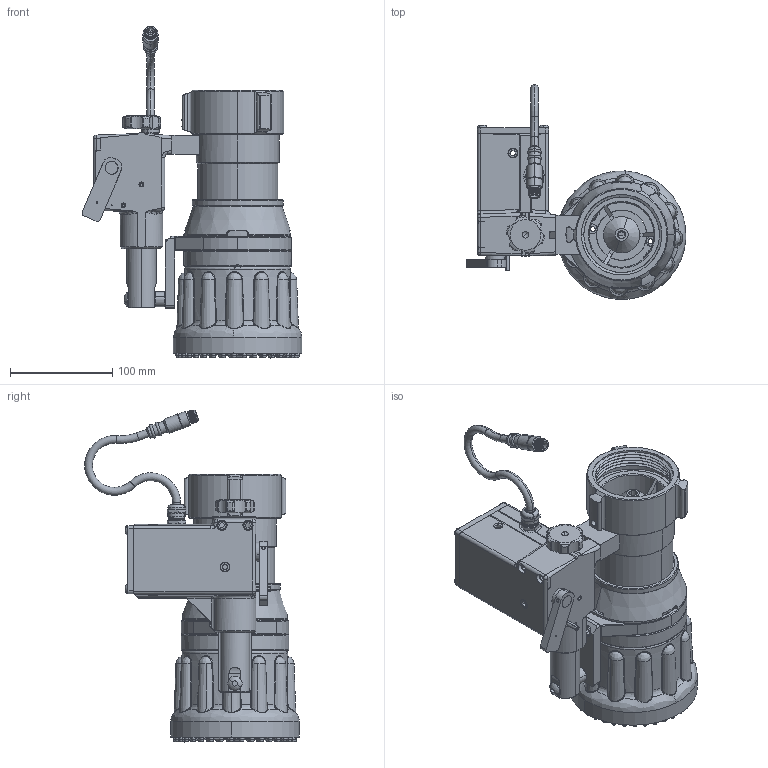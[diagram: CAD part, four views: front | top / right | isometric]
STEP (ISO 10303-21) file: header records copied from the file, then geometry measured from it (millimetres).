
FILE_DESCRIPTION (( 'STEP AP203' ), '1' );
FILE_NAME ('MD-ERP-12A.step', '2014-05-13T19:41:13', ( 'user' ), ( '' ), 'SwSTEP 2.0', 'SolidWorks 2012', '' );
FILE_SCHEMA (( 'CONFIG_CONTROL_DESIGN' ));
Length unit declared in the file: inch
Products named in the file (1): MD-ERP-12A
Bounding box: 215.12 x 209.9 x 325.02 mm (x, y, z)
Surface area: 299658.5 mm2 (no closed solid volume)
Topology: 0 solids, 60 shells, 1418 faces, 4735 edges, 3289 vertices
Faces by surface type: cylinder 448, plane 378, bspline 324, cone 131, torus 121, sphere 16
Entity records: 78156 total; most frequent: CARTESIAN_POINT 43233, ORIENTED_EDGE 7900, DIRECTION 5464, EDGE_CURVE 4729, VERTEX_POINT 3285, AXIS2_PLACEMENT_3D 2084, B_SPLINE_CURVE_WITH_KNOTS 2070, EDGE_LOOP 1562
